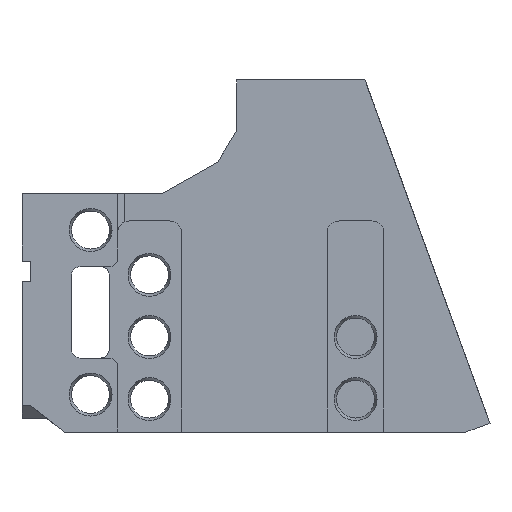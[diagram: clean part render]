
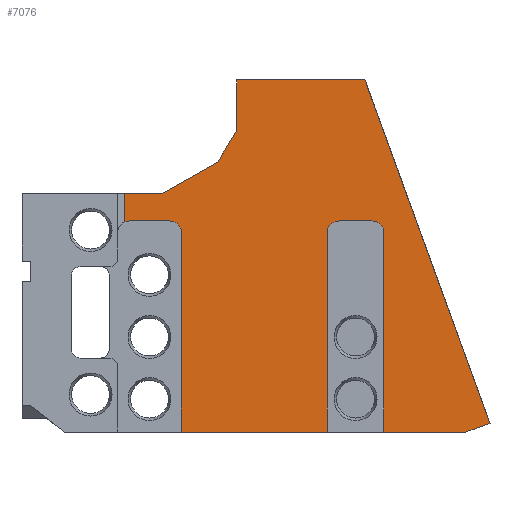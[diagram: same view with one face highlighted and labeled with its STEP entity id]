
A CAD part, left-side view. The second image highlights one B-rep face of the part: STEP entity #7076.
In plain terms, the highlighted planar face has unit normal (-1, 0, 0).
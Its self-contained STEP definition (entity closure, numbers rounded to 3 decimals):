
#107=CIRCLE('',#7343,1.3);
#112=CIRCLE('',#7351,1.3);
#134=CIRCLE('',#7393,50.);
#159=CIRCLE('',#7450,1.3);
#161=CIRCLE('',#7453,1.3);
#701=FACE_OUTER_BOUND('',#1127,.T.);
#1127=EDGE_LOOP('',(#5602,#5603,#5604,#5605,#5606,#5607,#5608,#5609,#5610,
#5611,#5612,#5613,#5614,#5615,#5616,#5617,#5618,#5619,#5620,#5621));
#1381=LINE('',#10199,#1926);
#1393=LINE('',#10470,#1938);
#1404=LINE('',#10492,#1949);
#1436=LINE('',#10779,#1981);
#1440=LINE('',#10790,#1985);
#1464=LINE('',#11030,#2009);
#1475=LINE('',#11429,#2020);
#1531=LINE('',#13653,#2076);
#1539=LINE('',#13676,#2084);
#1541=LINE('',#13679,#2086);
#1618=LINE('',#14371,#2163);
#1619=LINE('',#14372,#2164);
#1620=LINE('',#14374,#2165);
#1621=LINE('',#14375,#2166);
#1622=LINE('',#14376,#2167);
#1926=VECTOR('',#7767,10.);
#1938=VECTOR('',#7797,10.);
#1949=VECTOR('',#7810,10.);
#1981=VECTOR('',#7888,10.);
#1985=VECTOR('',#7900,10.);
#2009=VECTOR('',#7966,10.);
#2020=VECTOR('',#8017,10.);
#2076=VECTOR('',#8181,10.);
#2084=VECTOR('',#8203,10.);
#2086=VECTOR('',#8207,10.);
#2163=VECTOR('',#8362,10.);
#2164=VECTOR('',#8363,10.);
#2165=VECTOR('',#8364,10.);
#2166=VECTOR('',#8365,10.);
#2167=VECTOR('',#8366,10.);
#2858=VERTEX_POINT('',#10195);
#2860=VERTEX_POINT('',#10198);
#2909=VERTEX_POINT('',#10467);
#2910=VERTEX_POINT('',#10469);
#2920=VERTEX_POINT('',#10490);
#2971=VERTEX_POINT('',#10722);
#2972=VERTEX_POINT('',#10724);
#2988=VERTEX_POINT('',#10778);
#2989=VERTEX_POINT('',#10782);
#2991=VERTEX_POINT('',#10788);
#3021=VERTEX_POINT('',#11028);
#3057=VERTEX_POINT('',#11421);
#3059=VERTEX_POINT('',#11425);
#3160=VERTEX_POINT('',#13651);
#3161=VERTEX_POINT('',#13652);
#3164=VERTEX_POINT('',#13660);
#3166=VERTEX_POINT('',#13666);
#3169=VERTEX_POINT('',#13674);
#3230=VERTEX_POINT('',#14370);
#3231=VERTEX_POINT('',#14373);
#3565=EDGE_CURVE('',#2860,#2858,#1381,.T.);
#3616=EDGE_CURVE('',#2910,#2909,#1393,.T.);
#3627=EDGE_CURVE('',#2858,#2920,#1404,.T.);
#3686=EDGE_CURVE('',#2971,#2972,#107,.T.);
#3704=EDGE_CURVE('',#2988,#2972,#1436,.T.);
#3706=EDGE_CURVE('',#2988,#2989,#112,.T.);
#3710=EDGE_CURVE('',#2971,#2991,#1440,.T.);
#3756=EDGE_CURVE('',#2920,#3021,#1464,.T.);
#3802=EDGE_CURVE('',#3057,#3059,#134,.T.);
#3803=EDGE_CURVE('',#3059,#2860,#1475,.T.);
#3985=EDGE_CURVE('',#3160,#3161,#1531,.T.);
#3989=EDGE_CURVE('',#3164,#3160,#159,.T.);
#3992=EDGE_CURVE('',#3161,#3166,#161,.T.);
#3997=EDGE_CURVE('',#3021,#3169,#1539,.T.);
#3999=EDGE_CURVE('',#3169,#2910,#1541,.T.);
#4095=EDGE_CURVE('',#3230,#2991,#1618,.T.);
#4096=EDGE_CURVE('',#3230,#3164,#1619,.T.);
#4097=EDGE_CURVE('',#3166,#3231,#1620,.T.);
#4098=EDGE_CURVE('',#3057,#3231,#1621,.T.);
#4099=EDGE_CURVE('',#2989,#2909,#1622,.T.);
#5602=ORIENTED_EDGE('',*,*,#4095,.F.);
#5603=ORIENTED_EDGE('',*,*,#4096,.T.);
#5604=ORIENTED_EDGE('',*,*,#3989,.T.);
#5605=ORIENTED_EDGE('',*,*,#3985,.T.);
#5606=ORIENTED_EDGE('',*,*,#3992,.T.);
#5607=ORIENTED_EDGE('',*,*,#4097,.T.);
#5608=ORIENTED_EDGE('',*,*,#4098,.F.);
#5609=ORIENTED_EDGE('',*,*,#3802,.T.);
#5610=ORIENTED_EDGE('',*,*,#3803,.T.);
#5611=ORIENTED_EDGE('',*,*,#3565,.T.);
#5612=ORIENTED_EDGE('',*,*,#3627,.T.);
#5613=ORIENTED_EDGE('',*,*,#3756,.T.);
#5614=ORIENTED_EDGE('',*,*,#3997,.T.);
#5615=ORIENTED_EDGE('',*,*,#3999,.T.);
#5616=ORIENTED_EDGE('',*,*,#3616,.T.);
#5617=ORIENTED_EDGE('',*,*,#4099,.F.);
#5618=ORIENTED_EDGE('',*,*,#3706,.F.);
#5619=ORIENTED_EDGE('',*,*,#3704,.T.);
#5620=ORIENTED_EDGE('',*,*,#3686,.F.);
#5621=ORIENTED_EDGE('',*,*,#3710,.T.);
#6804=PLANE('',#7495);
#7076=ADVANCED_FACE('',(#701),#6804,.T.);
#7343=AXIS2_PLACEMENT_3D('',#10725,#7863,#7864);
#7351=AXIS2_PLACEMENT_3D('',#10783,#7892,#7893);
#7393=AXIS2_PLACEMENT_3D('',#11427,#8013,#8014);
#7450=AXIS2_PLACEMENT_3D('',#13661,#8187,#8188);
#7453=AXIS2_PLACEMENT_3D('',#13667,#8194,#8195);
#7495=AXIS2_PLACEMENT_3D('',#14369,#8360,#8361);
#7767=DIRECTION('',(0.,0.342,0.94));
#7797=DIRECTION('',(0.,1.,0.));
#7810=DIRECTION('',(0.,1.,0.));
#7863=DIRECTION('center_axis',(-1.,0.,0.));
#7864=DIRECTION('ref_axis',(0.,-0.707,0.707));
#7888=DIRECTION('',(0.,-1.,0.));
#7892=DIRECTION('center_axis',(-1.,0.,0.));
#7893=DIRECTION('ref_axis',(0.,0.707,0.707));
#7900=DIRECTION('',(0.,0.,-1.));
#7966=DIRECTION('',(0.,0.,-1.));
#8013=DIRECTION('center_axis',(-1.,0.,0.));
#8014=DIRECTION('ref_axis',(0.,0.,-1.));
#8017=DIRECTION('',(0.,-0.94,0.342));
#8181=DIRECTION('',(0.,-1.,0.));
#8187=DIRECTION('center_axis',(1.,0.,0.));
#8188=DIRECTION('ref_axis',(0.,0.,1.));
#8194=DIRECTION('center_axis',(1.,0.,0.));
#8195=DIRECTION('ref_axis',(0.,-1.,0.));
#8203=DIRECTION('',(0.,0.516,-0.856));
#8207=DIRECTION('',(0.,0.871,-0.492));
#8360=DIRECTION('center_axis',(-1.,0.,0.));
#8361=DIRECTION('ref_axis',(0.,1.,0.));
#8362=DIRECTION('',(0.,1.,0.));
#8363=DIRECTION('',(0.,0.,1.));
#8364=DIRECTION('',(0.,0.,-1.));
#8365=DIRECTION('',(0.,1.,0.));
#8366=DIRECTION('',(0.,0.,1.));
#10195=CARTESIAN_POINT('',(-40.,-42.533,36.875));
#10198=CARTESIAN_POINT('',(-40.,-56.214,-0.712));
#10199=CARTESIAN_POINT('',(-40.,-56.214,-0.712));
#10467=CARTESIAN_POINT('',(-40.,-16.268,24.45));
#10469=CARTESIAN_POINT('',(-40.,-20.343,24.45));
#10470=CARTESIAN_POINT('',(-40.,-15.15,24.45));
#10490=CARTESIAN_POINT('',(-40.,-28.5,36.875));
#10492=CARTESIAN_POINT('',(-40.,-42.533,36.875));
#10722=CARTESIAN_POINT('',(-40.,-22.45,20.15));
#10724=CARTESIAN_POINT('',(-40.,-21.15,21.45));
#10725=CARTESIAN_POINT('Origin',(-40.,-21.15,20.15));
#10778=CARTESIAN_POINT('',(-40.,-16.75,21.45));
#10779=CARTESIAN_POINT('',(-40.,-23.529,21.45));
#10782=CARTESIAN_POINT('',(-40.,-16.268,21.357));
#10783=CARTESIAN_POINT('Origin',(-40.,-16.75,20.15));
#10788=CARTESIAN_POINT('',(-40.,-22.45,-1.65));
#10790=CARTESIAN_POINT('',(-40.,-22.45,18.281));
#11028=CARTESIAN_POINT('',(-40.,-28.5,31.344));
#11030=CARTESIAN_POINT('',(-40.,-28.5,36.875));
#11421=CARTESIAN_POINT('',(-40.,-53.532,-1.65));
#11425=CARTESIAN_POINT('',(-40.,-55.328,-1.035));
#11427=CARTESIAN_POINT('Origin',(-40.,-38.227,45.95));
#11429=CARTESIAN_POINT('',(-40.,-56.214,-0.712));
#13651=CARTESIAN_POINT('',(-40.,-39.7,21.45));
#13652=CARTESIAN_POINT('',(-40.,-43.3,21.45));
#13653=CARTESIAN_POINT('',(-40.,-35.154,21.45));
#13660=CARTESIAN_POINT('',(-40.,-38.4,20.15));
#13661=CARTESIAN_POINT('Origin',(-40.,-39.7,20.15));
#13666=CARTESIAN_POINT('',(-40.,-44.6,20.15));
#13667=CARTESIAN_POINT('Origin',(-40.,-43.3,20.15));
#13674=CARTESIAN_POINT('',(-40.,-26.409,27.876));
#13676=CARTESIAN_POINT('',(-40.,-28.5,31.344));
#13679=CARTESIAN_POINT('',(-40.,-26.409,27.876));
#14369=CARTESIAN_POINT('Origin',(-40.,-30.607,16.413));
#14370=CARTESIAN_POINT('',(-40.,-38.4,-1.65));
#14371=CARTESIAN_POINT('',(-40.,-30.607,-1.65));
#14372=CARTESIAN_POINT('',(-40.,-38.4,6.182));
#14373=CARTESIAN_POINT('',(-40.,-44.6,-1.65));
#14374=CARTESIAN_POINT('',(-40.,-44.6,18.281));
#14375=CARTESIAN_POINT('',(-40.,-30.607,-1.65));
#14376=CARTESIAN_POINT('',(-40.,-16.268,20.431));
